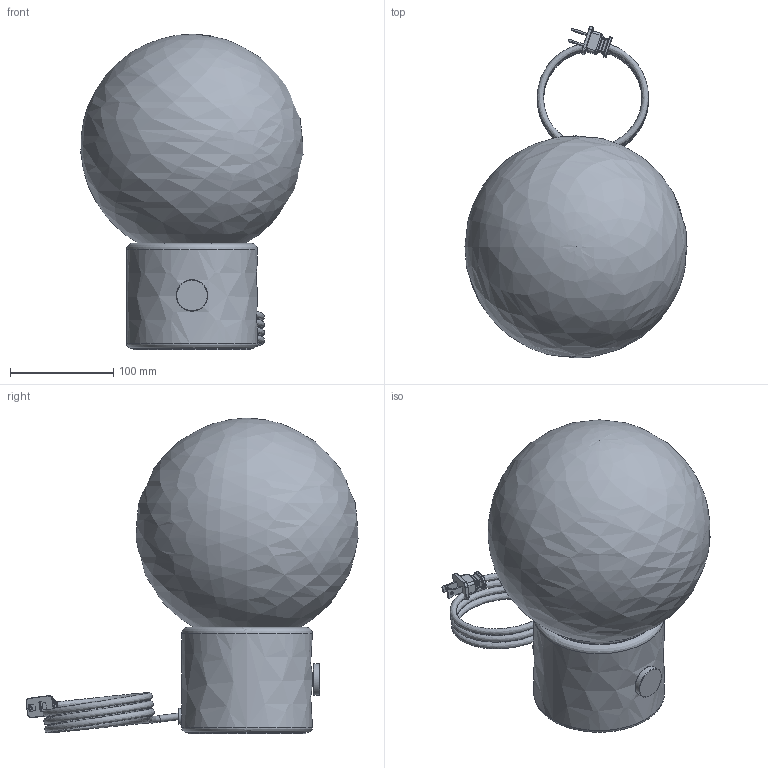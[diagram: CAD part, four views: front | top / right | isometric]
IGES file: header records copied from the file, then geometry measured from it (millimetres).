
Global section: file name: Niche - Solitaire Petite - Ionic Table Lamp; native system: unknown; preprocessor: unknown; author: unknown; organization: unknown; date: 20250210.085241; units: inch
Bounding box: 215.34 x 321.97 x 305.75 mm (x, y, z)
Volume: 1246439.5 mm3; surface area: 586445.9 mm2
Topology: 17 solids, 17 shells, 2000 faces, 5336 edges, 3516 vertices
Faces by surface type: bspline 1999, revolution 1
